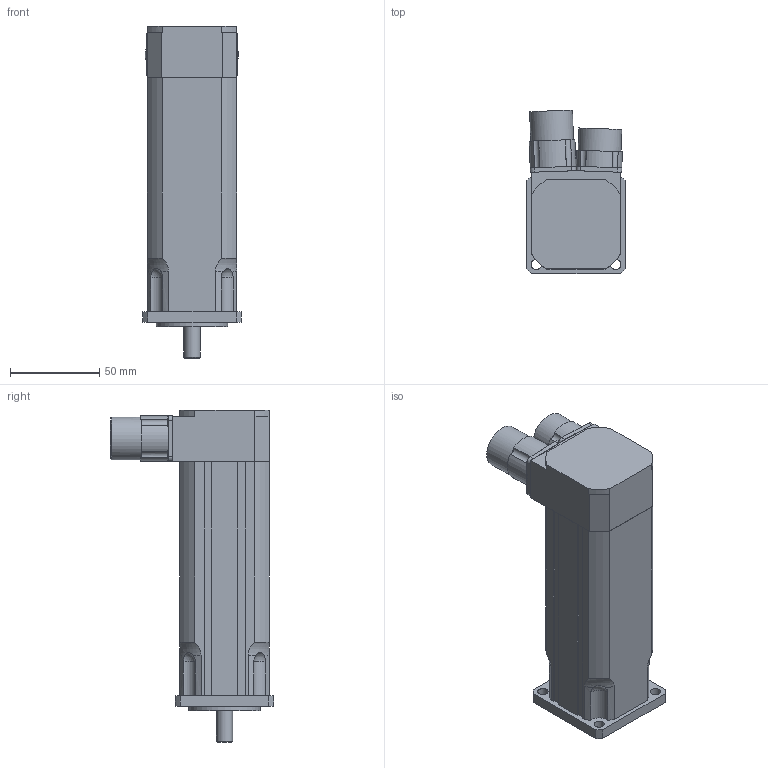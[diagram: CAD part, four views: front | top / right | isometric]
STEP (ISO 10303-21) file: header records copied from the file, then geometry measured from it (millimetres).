
FILE_DESCRIPTION(/* description */ ('Alibre Inc.'),/* implementation_level */ '2;1');
FILE_NAME(/* name */ 'export0',/* time_stamp */ '2011-07-27T13:26:33+02:00',/* author */ (''),/* organization */ (''),/* preprocessor_version */ 'ST-DEVELOPER v12',/* originating_system */ 'Alibre',/* authorisation */ '');
FILE_SCHEMA (('CONFIG_CONTROL_DESIGN'));
Length unit declared in the file: millimetre
Products named in the file (5): ID_1
Bounding box: 55 x 91.45 x 186 mm (x, y, z)
Volume: 408434.7 mm3; surface area: 55014 mm2
Topology: 4 solids, 4 shells, 163 faces, 420 edges, 271 vertices
Faces by surface type: plane 83, cylinder 63, bspline 8, sphere 4, torus 4, cone 1
Full cylindrical faces by diameter (mm): 2.7 x8, 9 x1, 20 x2, 24 x2, 26 x1, 40 x1
Entity records: 5763 total; most frequent: CARTESIAN_POINT 1344, DIRECTION 790, ORIENTED_EDGE 788, EDGE_CURVE 394, AXIS2_PLACEMENT_3D 340, VERTEX_POINT 267, EDGE_LOOP 219, FACE_BOUND 219
